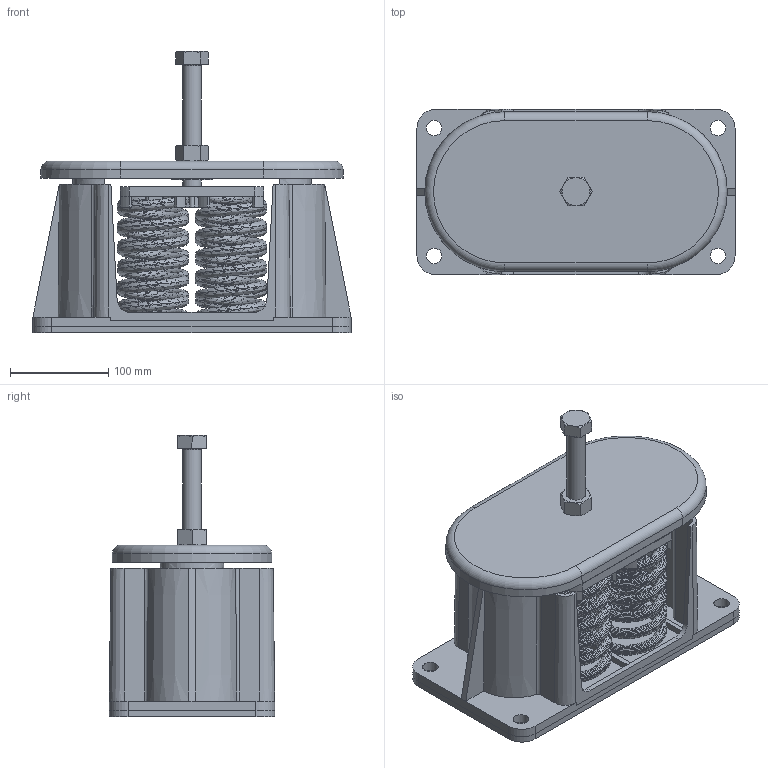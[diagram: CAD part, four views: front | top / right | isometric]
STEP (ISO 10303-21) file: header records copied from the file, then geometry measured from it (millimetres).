
FILE_DESCRIPTION(/* description */ (''),/* implementation_level */ '2;1');
FILE_NAME(/* name */ 'C:\001_Work\Designs\C MOUNTS\C-E, E2\C-E-C2-7480.stp',/* time_stamp */ '2015-12-08T10:36:28-05:00',/* author */ ('rramoutar'),/* organization */ ('Mason Industries Inc.'),/* preprocessor_version */ 'ST-DEVELOPER v15.6',/* originating_system */ 'Autodesk Inventor 2015',/* authorisation */ '');
FILE_SCHEMA (('CONFIG_CONTROL_DESIGN'));
Products named in the file (1): C-E-C2-7480
Bounding box: 323.85 x 168.28 x 286.31 mm (x, y, z)
Volume: 2154829 mm3; surface area: 800909.4 mm2
Topology: 14 solids, 19 shells, 487 faces, 1268 edges, 825 vertices
Faces by surface type: plane 250, cylinder 99, bspline 94, cone 39, torus 5
Full cylindrical faces by diameter (mm): 15.875 x8, 19.05 x3, 20.637 x1, 41.275 x1
Entity records: 53824 total; most frequent: CARTESIAN_POINT 42014, ORIENTED_EDGE 2492, DIRECTION 2028, EDGE_CURVE 1246, VERTEX_POINT 820, AXIS2_PLACEMENT_3D 680, LINE 668, VECTOR 668
